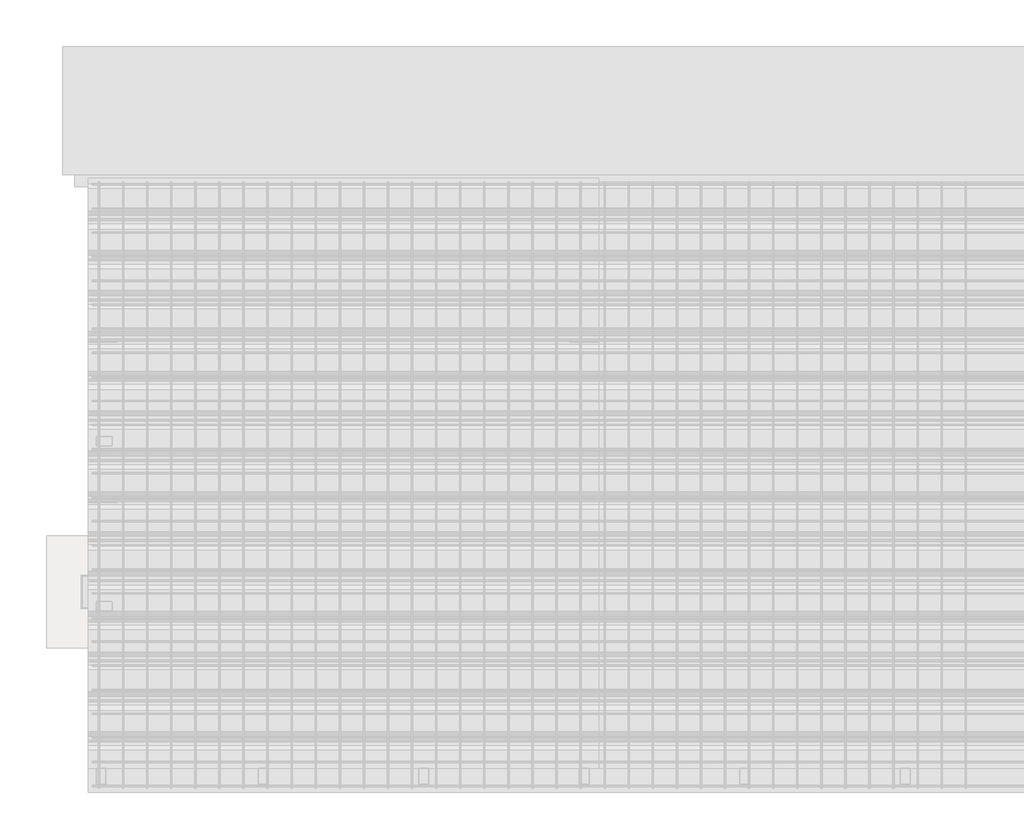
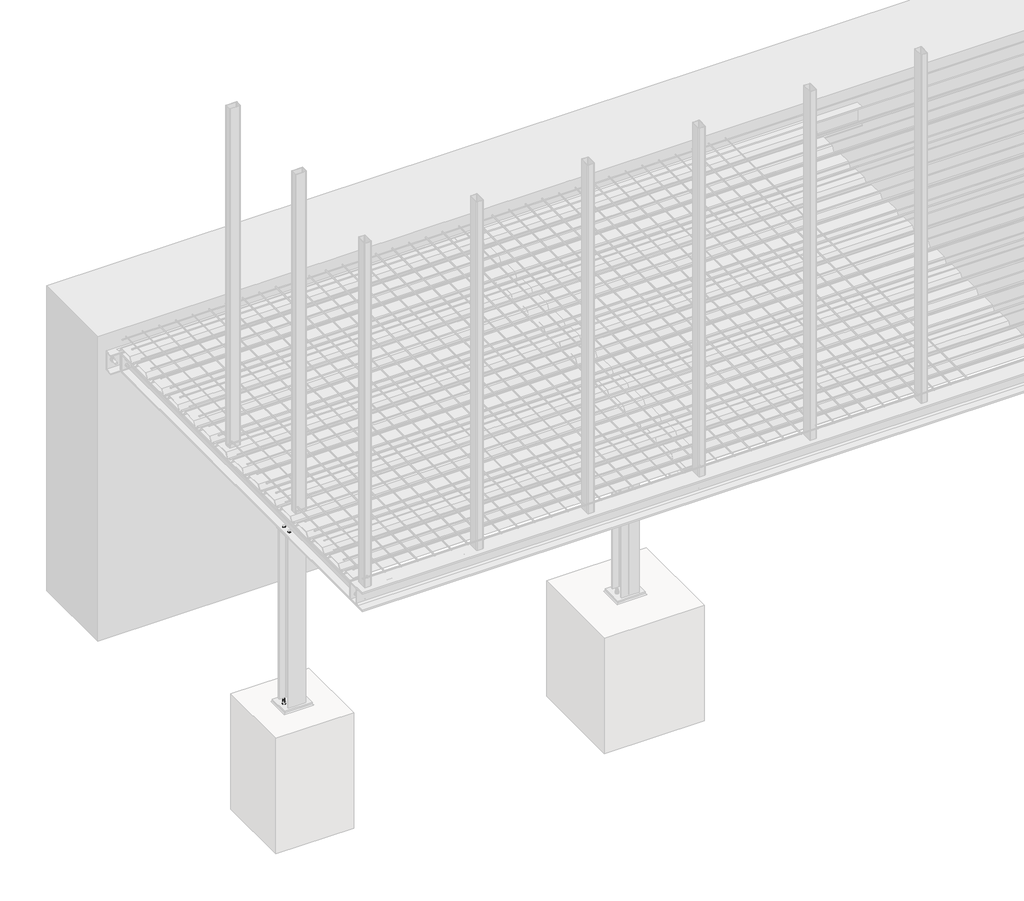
# One storey, part 20 of 36: 21 assemblies.
"""IFC4 building model written with IfcOpenShell, lengths in millimetres."""

import ifcopenshell
import ifcopenshell.guid

model = None  # the IFC model being written
_history = None  # IfcOwnerHistory: only IFC2X3 demands one
_inside = {}  # id of a spatial element -> (the spatial element, [elements in it])
_under = {}  # id of a project, library or spatial element -> (it, [spatial elements below it])
_declared = {}  # id of a project -> (the project, [libraries it declares])
_typed = {}  # id of a type object -> (the type object, [elements of that type])
_made_of = {}  # id of a material, layer set ... -> (it, [elements and type objects made of it])


def new_model(schema):
    """Start an empty IFC model of exactly this schema.

    Asked for "IFC4X3", IfcOpenShell would pick the latest addendum, in which some entities
    have other attributes; the version numbers below select the first issue.
    IFC2X3 requires an IfcOwnerHistory on every rooted entity: one is made here for all.
    """
    global model, _history
    if schema == "IFC4X3":
        model = ifcopenshell.file(schema_version=(4, 3, 0, 0))
    else:
        model = ifcopenshell.file(schema=schema)
    _inside.clear()
    _under.clear()
    _declared.clear()
    _typed.clear()
    _made_of.clear()
    _history = None
    if model.schema == "IFC2X3":
        org = make("IfcOrganization", Name="unknown")
        user = make(
            "IfcPersonAndOrganization",
            ThePerson=make("IfcPerson", FamilyName="unknown"),
            TheOrganization=org,
        )
        app = make(
            "IfcApplication",
            ApplicationDeveloper=org,
            Version="unknown",
            ApplicationFullName="unknown",
            ApplicationIdentifier="unknown",
        )
        _history = make(
            "IfcOwnerHistory",
            OwningUser=user,
            OwningApplication=app,
            ChangeAction="ADDED",
            CreationDate=0,
        )
    return model


def make(cls, **values):
    """One entity of the class cls with the attributes given. An attribute that is None is left unset."""
    return model.create_entity(
        cls, **{name: value for name, value in values.items() if value is not None}
    )


def rooted(cls, **values):
    """An entity with a GlobalId (a new one), such as an element, a storey or a relation."""
    return make(cls, GlobalId=ifcopenshell.guid.new(), OwnerHistory=_history, **values)


def si_unit(unit_type, name, prefix=None):
    """IfcSIUnit, for example si_unit("LENGTHUNIT", "METRE", prefix="MILLI")."""
    return make("IfcSIUnit", UnitType=unit_type, Prefix=prefix, Name=name)


def assignment(units):
    """IfcUnitAssignment: the units of a project."""
    return None if units is None else make("IfcUnitAssignment", Units=units)


def point(xyz):
    """IfcCartesianPoint."""
    return None if xyz is None else make("IfcCartesianPoint", Coordinates=xyz)


def direction(xyz):
    """IfcDirection."""
    return None if xyz is None else make("IfcDirection", DirectionRatios=xyz)


def frame(location, z_axis=None, x_axis=None):
    """IfcAxis2Placement3D, a coordinate frame: its origin and axes. An axis left out is left unset."""
    return make(
        "IfcAxis2Placement3D",
        Location=point(location),
        Axis=direction(z_axis),
        RefDirection=direction(x_axis),
    )


def frame_2d(location, x_axis=None):
    """IfcAxis2Placement2D, a coordinate frame in the plane: its origin and x axis."""
    return make(
        "IfcAxis2Placement2D", Location=point(location), RefDirection=direction(x_axis)
    )


def origin():
    """The frame at (0, 0, 0) with its axes left unset."""
    return frame((0.0, 0.0, 0.0))


def place(relative_to, where):
    """IfcLocalPlacement: puts the frame where relative to a parent placement (None: the world)."""
    return make(
        "IfcLocalPlacement", PlacementRelTo=relative_to, RelativePlacement=where
    )


def context(
    kind, dimensions, precision=None, world=None, true_north=None, identifier=None
):
    """IfcGeometricRepresentationContext, for example the 3D "Model" context."""
    return make(
        "IfcGeometricRepresentationContext",
        ContextIdentifier=identifier,
        ContextType=kind,
        CoordinateSpaceDimension=dimensions,
        Precision=precision,
        WorldCoordinateSystem=world,
        TrueNorth=true_north,
    )


def project(units=None, contexts=None):
    """IfcProject with its units and contexts."""
    return rooted(
        "IfcProject",
        Name="project",
        RepresentationContexts=contexts,
        UnitsInContext=assignment(units),
    )


def spatial(cls, under=None, at=None, **own):
    """A site, building, storey or space (cls), placed at a placement, below another one or the project."""
    s = rooted(cls, ObjectPlacement=at, **own)
    if under is not None:
        _under.setdefault(under.id(), (under, []))[1].append(s)
    return s


def polyline(points):
    """IfcPolyline through the points."""
    return make("IfcPolyline", Points=[point(p) for p in points])


def circle_curve(where, radius):
    """IfcCircle in the frame where."""
    return make("IfcCircle", Position=where, Radius=radius)


def trimmed(basis, trim1, trim2, sense, master):
    """IfcTrimmedCurve: the piece of a basis curve between two trims."""
    return make(
        "IfcTrimmedCurve",
        BasisCurve=basis,
        Trim1=trim1,
        Trim2=trim2,
        SenseAgreement=sense,
        MasterRepresentation=master,
    )


def segment(curve, same_sense, transition):
    """IfcCompositeCurveSegment."""
    return make(
        "IfcCompositeCurveSegment",
        Transition=transition,
        SameSense=same_sense,
        ParentCurve=curve,
    )


def composite_curve(segments, self_intersect=None):
    """IfcCompositeCurve: segments joined end to end."""
    return make("IfcCompositeCurve", Segments=segments, SelfIntersect=self_intersect)


def outline(outer, holes=None, kind="AREA"):
    """IfcArbitraryClosedProfileDef: a profile drawn as a closed curve; with holes, ...WithVoids."""
    if holes is None:
        return make("IfcArbitraryClosedProfileDef", ProfileType=kind, OuterCurve=outer)
    return make(
        "IfcArbitraryProfileDefWithVoids",
        ProfileType=kind,
        OuterCurve=outer,
        InnerCurves=holes,
    )


def extrude(swept, where, along, depth):
    """IfcExtrudedAreaSolid: the profile swept, set in the frame where, extruded along a direction by depth."""
    return make(
        "IfcExtrudedAreaSolid",
        SweptArea=swept,
        Position=where,
        ExtrudedDirection=direction(along),
        Depth=depth,
    )


def shape(context_of_items, identifier, shape_type, items):
    """IfcShapeRepresentation: the items that make up one representation, for example the "Body"."""
    return make(
        "IfcShapeRepresentation",
        ContextOfItems=context_of_items,
        RepresentationIdentifier=identifier,
        RepresentationType=shape_type,
        Items=items,
    )


def made_of(thing, what):
    """Note that an element or type object is made of a material, layer set ...; save() writes the relation."""
    if what is not None:
        _made_of.setdefault(what.id(), (what, []))[1].append(thing)
    return thing


def element(
    cls,
    number,
    at=None,
    inside=None,
    cuts=None,
    type_object=None,
    material=None,
    context=None,
    identifier="Body",
    shape_type=None,
    held_by="IfcProductDefinitionShape",
    body=None,
    shapes=None,
    **own,
):
    """One element of the class cls, such as IfcWall. Its Tag is "e" and its number.

    at: its placement. inside: the storey or other place that contains it. cuts: it is an
    opening in that element (IfcRelVoidsElement). A single representation is given by context,
    identifier, shape_type and body (its items); several are given by shapes. held_by: the class
    of the entity that holds the representations. save() writes the other relations.
    """
    e = rooted(cls, Tag="e%d" % number, ObjectPlacement=at, **own)
    if body is not None:
        shapes = [shape(context, identifier, shape_type, body)]
    if shapes is not None:
        e.Representation = make(held_by, Representations=shapes)
    if inside is not None:
        _inside.setdefault(inside.id(), (inside, []))[1].append(e)
    if cuts is not None:
        rooted(
            "IfcRelVoidsElement", RelatingBuildingElement=cuts, RelatedOpeningElement=e
        )
    if type_object is not None:
        _typed.setdefault(type_object.id(), (type_object, []))[1].append(e)
    return made_of(e, material)


def aggregate(whole, parts):
    """IfcRelAggregates: a whole, such as a stair, and the parts it consists of."""
    return rooted("IfcRelAggregates", RelatingObject=whole, RelatedObjects=parts)


def save(model, path):
    """Write the relations noted so far, then the file.

    IfcRelAggregates (storeys below a building ...), IfcRelContainedInSpatialStructure (elements
    in a storey), IfcRelDefinesByType, IfcRelAssociatesMaterial and IfcRelDeclares: one each for
    every whole, place, type object, material and project.
    """
    for whole, parts in _under.values():
        aggregate(whole, parts)
    for where, things in _inside.values():
        rooted(
            "IfcRelContainedInSpatialStructure",
            RelatedElements=things,
            RelatingStructure=where,
        )
    for kind, things in _typed.values():
        rooted("IfcRelDefinesByType", RelatedObjects=things, RelatingType=kind)
    for what, things in _made_of.values():
        rooted("IfcRelAssociatesMaterial", RelatedObjects=things, RelatingMaterial=what)
    for by, libraries in _declared.values():
        rooted("IfcRelDeclares", RelatingContext=by, RelatedDefinitions=libraries)
    model.write(path)


model = new_model("IFC4")

# Units and contexts
model_context = context("Model", 3, world=origin())
ifc_project = project(units=[si_unit("LENGTHUNIT", "METRE", prefix="MILLI")], contexts=[model_context])

# Site, building, storey
site = spatial("IfcSite", under=ifc_project)
building = spatial("IfcBuilding", under=site)
storey = spatial("IfcBuildingStorey", under=building, Name="Základy", Elevation=-1200.0)

# Assemblies
placement = place(None, origin())
element("IfcElementAssembly", 1, at=placement, inside=storey, context=model_context, shape_type="SweptSolid", body=[
    extrude(outline(composite_curve([segment(polyline([(3073.6, 60.0), (3026.4, 60.0)]), True, "CONTINUOUS"), segment(trimmed(circle_curve(frame_2d((3026.4, 66.4)), 6.4), [point((3026.4, 60.0))], [point((3020.0, 66.4))], False, "CARTESIAN"), True, "CONTINUOUS"), segment(polyline([(3020.0, 66.4), (3020.0, 153.6)]), True, "CONTINUOUS"), segment(trimmed(circle_curve(frame_2d((3026.4, 153.6)), 6.4), [point((3020.0, 153.6))], [point((3026.4, 160.0))], False, "CARTESIAN"), True, "CONTINUOUS"), segment(polyline([(3026.4, 160.0), (3073.6, 160.0)]), True, "CONTINUOUS"), segment(trimmed(circle_curve(frame_2d((3073.6, 153.6)), 6.4), [point((3073.6, 160.0))], [point((3080.0, 153.6))], False, "CARTESIAN"), True, "CONTINUOUS"), segment(polyline([(3080.0, 153.6), (3080.0, 66.4)]), True, "CONTINUOUS"), segment(trimmed(circle_curve(frame_2d((3073.6, 66.4)), 6.4), [point((3080.0, 66.4))], [point((3073.6, 60.0))], False, "CARTESIAN"), True, "CONTINUOUS")], self_intersect=False), holes=[composite_curve([segment(trimmed(circle_curve(frame_2d((3073.6, 66.4)), 3.2), [point((3073.6, 63.2))], [point((3076.8, 66.4))], True, "CARTESIAN"), True, "CONTINUOUS"), segment(polyline([(3076.8, 66.4), (3076.8, 153.6)]), True, "CONTINUOUS"), segment(trimmed(circle_curve(frame_2d((3073.6, 153.6)), 3.2), [point((3076.8, 153.6))], [point((3073.6, 156.8))], True, "CARTESIAN"), True, "CONTINUOUS"), segment(polyline([(3073.6, 156.8), (3026.4, 156.8)]), True, "CONTINUOUS"), segment(trimmed(circle_curve(frame_2d((3026.4, 153.6)), 3.2), [point((3026.4, 156.8))], [point((3023.2, 153.6))], True, "CARTESIAN"), True, "CONTINUOUS"), segment(polyline([(3023.2, 153.6), (3023.2, 66.4)]), True, "CONTINUOUS"), segment(trimmed(circle_curve(frame_2d((3026.4, 66.4)), 3.2), [point((3023.2, 66.4))], [point((3026.4, 63.2))], True, "CARTESIAN"), True, "CONTINUOUS"), segment(polyline([(3026.4, 63.2), (3073.6, 63.2)]), True, "CONTINUOUS")], self_intersect=False)]), frame((0.0, 0.0, -160.0), z_axis=(0.0, 0.0, 1.0), x_axis=(1.0, 0.0, 0.0)), (0.0, 0.0, 1.0), 3320.0),
])
element("IfcElementAssembly", 2, at=placement, inside=storey, context=model_context, shape_type="SweptSolid", body=[
    extrude(outline(polyline([(1802.7875602, -160.0099992), (1772.2875602, -111.5000008), (1637.6975638, -111.5000008), (1607.1975638, -160.0000008), (1552.7875754, -160.0000008), (1522.2875754, -111.5000008), (1387.6975715, -111.5000008), (1357.1975715, -160.0000008), (1302.7875697, -160.0000008), (1272.2875716, -111.5000008), (1137.6975638, -111.5000008), (1107.1975638, -160.0000008), (1052.7875602, -160.0000008), (1022.2875602, -111.5000008), (887.6975638, -111.5000008), (857.1975638, -160.0000008), (802.7875602, -160.0000008), (790.7375724, -139.4300002), (803.1975638, -159.2500008), (856.7875602, -159.2500008), (887.2875602, -110.7500008), (1022.6975638, -110.7500008), (1053.1975638, -159.2500008), (1106.7875754, -159.2500008), (1137.2875754, -110.7500008), (1272.6975715, -110.7500008), (1303.1975695, -159.2500008), (1356.7875716, -159.2500008), (1387.2875678, -110.7500008), (1522.6975638, -110.7500008), (1553.1975638, -159.2500008), (1606.7875602, -159.2500008), (1637.2875602, -110.7500008), (1772.6975638, -110.7500008), (1803.1975638, -159.2500008), (1839.9975821, -160.0000008), (1802.7875602, -160.0099992)])), frame((-40.0, 0.0, 0.0), z_axis=(1.0, 0.0, 0.0), x_axis=(0.0, 1.0, 0.0)), (0.0, 0.0, 1.0), 3180.0),
])
element("IfcElementAssembly", 3, at=placement, inside=storey, context=model_context, shape_type="SweptSolid", body=[
    extrude(outline(polyline([(3500.0, 1710.0), (3500.0, 810.0), (2600.0, 810.0), (2600.0, 1710.0), (3500.0, 1710.0)])), frame((0.0, 0.0, -3100.0), z_axis=(0.0, 0.0, 1.0), x_axis=(1.0, 0.0, 0.0)), (0.0, 0.0, 1.0), 1100.0),
])
element("IfcElementAssembly", 4, at=placement, inside=storey, context=model_context, shape_type="SweptSolid", body=[
    extrude(outline(composite_curve([segment(polyline([(2073.6, 60.0), (2026.4, 60.0)]), True, "CONTINUOUS"), segment(trimmed(circle_curve(frame_2d((2026.4, 66.4)), 6.4), [point((2026.4, 60.0))], [point((2020.0, 66.4))], False, "CARTESIAN"), True, "CONTINUOUS"), segment(polyline([(2020.0, 66.4), (2020.0, 153.6)]), True, "CONTINUOUS"), segment(trimmed(circle_curve(frame_2d((2026.4, 153.6)), 6.4), [point((2020.0, 153.6))], [point((2026.4, 160.0))], False, "CARTESIAN"), True, "CONTINUOUS"), segment(polyline([(2026.4, 160.0), (2073.6, 160.0)]), True, "CONTINUOUS"), segment(trimmed(circle_curve(frame_2d((2073.6, 153.6)), 6.4), [point((2073.6, 160.0))], [point((2080.0, 153.6))], False, "CARTESIAN"), True, "CONTINUOUS"), segment(polyline([(2080.0, 153.6), (2080.0, 66.4)]), True, "CONTINUOUS"), segment(trimmed(circle_curve(frame_2d((2073.6, 66.4)), 6.4), [point((2080.0, 66.4))], [point((2073.6, 60.0))], False, "CARTESIAN"), True, "CONTINUOUS")], self_intersect=False), holes=[composite_curve([segment(trimmed(circle_curve(frame_2d((2073.6, 66.4)), 3.2), [point((2073.6, 63.2))], [point((2076.8, 66.4))], True, "CARTESIAN"), True, "CONTINUOUS"), segment(polyline([(2076.8, 66.4), (2076.8, 153.6)]), True, "CONTINUOUS"), segment(trimmed(circle_curve(frame_2d((2073.6, 153.6)), 3.2), [point((2076.8, 153.6))], [point((2073.6, 156.8))], True, "CARTESIAN"), True, "CONTINUOUS"), segment(polyline([(2073.6, 156.8), (2026.4, 156.8)]), True, "CONTINUOUS"), segment(trimmed(circle_curve(frame_2d((2026.4, 153.6)), 3.2), [point((2026.4, 156.8))], [point((2023.2, 153.6))], True, "CARTESIAN"), True, "CONTINUOUS"), segment(polyline([(2023.2, 153.6), (2023.2, 66.4)]), True, "CONTINUOUS"), segment(trimmed(circle_curve(frame_2d((2026.4, 66.4)), 3.2), [point((2023.2, 66.4))], [point((2026.4, 63.2))], True, "CARTESIAN"), True, "CONTINUOUS"), segment(polyline([(2026.4, 63.2), (2073.6, 63.2)]), True, "CONTINUOUS")], self_intersect=False)]), frame((0.0, 0.0, -160.0), z_axis=(0.0, 0.0, 1.0), x_axis=(1.0, 0.0, 0.0)), (0.0, 0.0, 1.0), 3320.0),
])
element("IfcElementAssembly", 5, at=placement, inside=storey, context=model_context, shape_type="SweptSolid", body=[
    extrude(outline(composite_curve([segment(polyline([(1200.0, -193.0), (1320.0, -193.0), (1320.0, -201.0), (1274.5, -201.0)]), True, "CONTINUOUS"), segment(trimmed(circle_curve(frame_2d((1274.5, -213.0)), 12.0), [point((1274.5, -201.0))], [point((1262.5, -213.0))], True, "CARTESIAN"), True, "CONTINUOUS"), segment(polyline([(1262.5, -213.0), (1262.5, -287.0)]), True, "CONTINUOUS"), segment(trimmed(circle_curve(frame_2d((1274.5, -287.0)), 12.0), [point((1262.5, -287.0))], [point((1274.5, -299.0))], True, "CARTESIAN"), True, "CONTINUOUS"), segment(polyline([(1274.5, -299.0), (1320.0, -299.0), (1320.0, -307.0), (1200.0, -307.0), (1200.0, -299.0), (1245.5, -299.0)]), True, "CONTINUOUS"), segment(trimmed(circle_curve(frame_2d((1245.5, -287.0)), 12.0), [point((1245.5, -299.0))], [point((1257.5, -287.0))], True, "CARTESIAN"), True, "CONTINUOUS"), segment(polyline([(1257.5, -287.0), (1257.5, -213.0)]), True, "CONTINUOUS"), segment(trimmed(circle_curve(frame_2d((1245.5, -213.0)), 12.0), [point((1257.5, -213.0))], [point((1245.5, -201.0))], True, "CARTESIAN"), True, "CONTINUOUS"), segment(polyline([(1245.5, -201.0), (1200.0, -201.0), (1200.0, -193.0)]), True, "CONTINUOUS")], self_intersect=False)), frame((160.0, 0.0, 0.0), z_axis=(1.0, 0.0, 0.0), x_axis=(0.0, 1.0, 0.0)), (0.0, 0.0, 1.0), 2780.0),
    extrude(outline(polyline([(2940.0, 1200.0), (2940.0, 1320.0), (2950.0, 1320.0), (2950.0, 1200.0), (2940.0, 1200.0)])), frame((0.0, 0.0, -299.0), z_axis=(0.0, 0.0, 1.0), x_axis=(1.0, 0.0, 0.0)), (0.0, 0.0, 1.0), 98.0),
    extrude(outline(polyline([(150.0, 1200.0), (150.0, 1320.0), (160.0, 1320.0), (160.0, 1200.0), (150.0, 1200.0)])), frame((0.0, 0.0, -299.0), z_axis=(0.0, 0.0, 1.0), x_axis=(1.0, 0.0, 0.0)), (0.0, 0.0, 1.0), 98.0),
])
element("IfcElementAssembly", 6, at=placement, inside=storey, context=model_context, shape_type="SweptSolid", body=[
    extrude(outline(composite_curve([segment(trimmed(circle_curve(frame_2d((-49.0, 777.5)), 4.0), [point((-49.0, 773.5))], [point((-49.0, 781.5))], False, "CARTESIAN"), True, "CONTINUOUS"), segment(trimmed(circle_curve(frame_2d((-49.0, 777.5)), 4.0), [point((-49.0, 781.5))], [point((-49.0, 773.5))], False, "CARTESIAN"), True, "CONTINUOUS")], self_intersect=False)), frame((0.0, 35.0, 0.0), z_axis=(0.0, 1.0, 0.0), x_axis=(0.0, 0.0, 1.0)), (0.0, 0.0, 1.0), 3780.0),
])
element("IfcElementAssembly", 7, at=placement, inside=storey, context=model_context, shape_type="SweptSolid", body=[
    extrude(outline(composite_curve([segment(trimmed(circle_curve(frame_2d((-49.0, 927.5)), 4.0), [point((-49.0, 923.5))], [point((-49.0, 931.5))], False, "CARTESIAN"), True, "CONTINUOUS"), segment(trimmed(circle_curve(frame_2d((-49.0, 927.5)), 4.0), [point((-49.0, 931.5))], [point((-49.0, 923.5))], False, "CARTESIAN"), True, "CONTINUOUS")], self_intersect=False)), frame((0.0, 35.0, 0.0), z_axis=(0.0, 1.0, 0.0), x_axis=(0.0, 0.0, 1.0)), (0.0, 0.0, 1.0), 3780.0),
])
element("IfcElementAssembly", 8, at=placement, inside=storey, context=model_context, shape_type="SweptSolid", body=[
    extrude(outline(composite_curve([segment(trimmed(circle_curve(frame_2d((-49.0, 1077.5)), 4.0), [point((-49.0, 1073.5))], [point((-49.0, 1081.5))], False, "CARTESIAN"), True, "CONTINUOUS"), segment(trimmed(circle_curve(frame_2d((-49.0, 1077.5)), 4.0), [point((-49.0, 1081.5))], [point((-49.0, 1073.5))], False, "CARTESIAN"), True, "CONTINUOUS")], self_intersect=False)), frame((0.0, 35.0, 0.0), z_axis=(0.0, 1.0, 0.0), x_axis=(0.0, 0.0, 1.0)), (0.0, 0.0, 1.0), 3780.0),
])
element("IfcElementAssembly", 9, at=placement, inside=storey, context=model_context, shape_type="SweptSolid", body=[
    extrude(outline(composite_curve([segment(trimmed(circle_curve(frame_2d((-49.0, 1227.5)), 4.0), [point((-49.0, 1223.5))], [point((-49.0, 1231.5))], False, "CARTESIAN"), True, "CONTINUOUS"), segment(trimmed(circle_curve(frame_2d((-49.0, 1227.5)), 4.0), [point((-49.0, 1231.5))], [point((-49.0, 1223.5))], False, "CARTESIAN"), True, "CONTINUOUS")], self_intersect=False)), frame((0.0, 35.0, 0.0), z_axis=(0.0, 1.0, 0.0), x_axis=(0.0, 0.0, 1.0)), (0.0, 0.0, 1.0), 3780.0),
])
element("IfcElementAssembly", 10, at=placement, inside=storey, context=model_context, shape_type="SweptSolid", body=[
    extrude(outline(composite_curve([segment(trimmed(circle_curve(frame_2d((-49.0, 1377.5)), 4.0), [point((-49.0, 1373.5))], [point((-49.0, 1381.5))], False, "CARTESIAN"), True, "CONTINUOUS"), segment(trimmed(circle_curve(frame_2d((-49.0, 1377.5)), 4.0), [point((-49.0, 1381.5))], [point((-49.0, 1373.5))], False, "CARTESIAN"), True, "CONTINUOUS")], self_intersect=False)), frame((0.0, 35.0, 0.0), z_axis=(0.0, 1.0, 0.0), x_axis=(0.0, 0.0, 1.0)), (0.0, 0.0, 1.0), 3780.0),
])
element("IfcElementAssembly", 11, at=placement, inside=storey, context=model_context, shape_type="SweptSolid", body=[
    extrude(outline(composite_curve([segment(trimmed(circle_curve(frame_2d((-49.0, 1527.5)), 4.0), [point((-49.0, 1523.5))], [point((-49.0, 1531.5))], False, "CARTESIAN"), True, "CONTINUOUS"), segment(trimmed(circle_curve(frame_2d((-49.0, 1527.5)), 4.0), [point((-49.0, 1531.5))], [point((-49.0, 1523.5))], False, "CARTESIAN"), True, "CONTINUOUS")], self_intersect=False)), frame((0.0, 35.0, 0.0), z_axis=(0.0, 1.0, 0.0), x_axis=(0.0, 0.0, 1.0)), (0.0, 0.0, 1.0), 3780.0),
])
element("IfcElementAssembly", 12, at=placement, inside=storey, context=model_context, shape_type="SweptSolid", body=[
    extrude(outline(composite_curve([segment(trimmed(circle_curve(frame_2d((-49.0, 1677.5)), 4.0), [point((-49.0, 1673.5))], [point((-49.0, 1681.5))], False, "CARTESIAN"), True, "CONTINUOUS"), segment(trimmed(circle_curve(frame_2d((-49.0, 1677.5)), 4.0), [point((-49.0, 1681.5))], [point((-49.0, 1673.5))], False, "CARTESIAN"), True, "CONTINUOUS")], self_intersect=False)), frame((0.0, 35.0, 0.0), z_axis=(0.0, 1.0, 0.0), x_axis=(0.0, 0.0, 1.0)), (0.0, 0.0, 1.0), 3780.0),
])
element("IfcElementAssembly", 13, at=placement, inside=storey, context=model_context, shape_type="SweptSolid", body=[
    extrude(outline(composite_curve([segment(trimmed(circle_curve(frame_2d((-49.0, 1827.5)), 4.0), [point((-49.0, 1823.5))], [point((-49.0, 1831.5))], False, "CARTESIAN"), True, "CONTINUOUS"), segment(trimmed(circle_curve(frame_2d((-49.0, 1827.5)), 4.0), [point((-49.0, 1831.5))], [point((-49.0, 1823.5))], False, "CARTESIAN"), True, "CONTINUOUS")], self_intersect=False)), frame((0.0, 35.0, 0.0), z_axis=(0.0, 1.0, 0.0), x_axis=(0.0, 0.0, 1.0)), (0.0, 0.0, 1.0), 3780.0),
])
element("IfcElementAssembly", 14, at=placement, inside=storey, context=model_context, shape_type="SweptSolid", body=[
    extrude(outline(composite_curve([segment(trimmed(circle_curve(frame_2d((-49.0, 1977.5)), 4.0), [point((-49.0, 1973.5))], [point((-49.0, 1981.5))], False, "CARTESIAN"), True, "CONTINUOUS"), segment(trimmed(circle_curve(frame_2d((-49.0, 1977.5)), 4.0), [point((-49.0, 1981.5))], [point((-49.0, 1973.5))], False, "CARTESIAN"), True, "CONTINUOUS")], self_intersect=False)), frame((0.0, 35.0, 0.0), z_axis=(0.0, 1.0, 0.0), x_axis=(0.0, 0.0, 1.0)), (0.0, 0.0, 1.0), 3780.0),
])
element("IfcElementAssembly", 15, at=placement, inside=storey, context=model_context, shape_type="SweptSolid", body=[
    extrude(outline(composite_curve([segment(trimmed(circle_curve(frame_2d((-49.0, 2127.5)), 4.0), [point((-49.0, 2123.5))], [point((-49.0, 2131.5))], False, "CARTESIAN"), True, "CONTINUOUS"), segment(trimmed(circle_curve(frame_2d((-49.0, 2127.5)), 4.0), [point((-49.0, 2131.5))], [point((-49.0, 2123.5))], False, "CARTESIAN"), True, "CONTINUOUS")], self_intersect=False)), frame((0.0, 35.0, 0.0), z_axis=(0.0, 1.0, 0.0), x_axis=(0.0, 0.0, 1.0)), (0.0, 0.0, 1.0), 3780.0),
])
element("IfcElementAssembly", 16, at=placement, inside=storey, context=model_context, shape_type="SweptSolid", body=[
    extrude(outline(composite_curve([segment(trimmed(circle_curve(frame_2d((-49.0, 2277.5)), 4.0), [point((-49.0, 2273.5))], [point((-49.0, 2281.5))], False, "CARTESIAN"), True, "CONTINUOUS"), segment(trimmed(circle_curve(frame_2d((-49.0, 2277.5)), 4.0), [point((-49.0, 2281.5))], [point((-49.0, 2273.5))], False, "CARTESIAN"), True, "CONTINUOUS")], self_intersect=False)), frame((0.0, 35.0, 0.0), z_axis=(0.0, 1.0, 0.0), x_axis=(0.0, 0.0, 1.0)), (0.0, 0.0, 1.0), 3780.0),
])
element("IfcElementAssembly", 17, at=placement, inside=storey, context=model_context, shape_type="SweptSolid", body=[
    extrude(outline(composite_curve([segment(trimmed(circle_curve(frame_2d((-49.0, 2427.5)), 4.0), [point((-49.0, 2423.5))], [point((-49.0, 2431.5))], False, "CARTESIAN"), True, "CONTINUOUS"), segment(trimmed(circle_curve(frame_2d((-49.0, 2427.5)), 4.0), [point((-49.0, 2431.5))], [point((-49.0, 2423.5))], False, "CARTESIAN"), True, "CONTINUOUS")], self_intersect=False)), frame((0.0, 35.0, 0.0), z_axis=(0.0, 1.0, 0.0), x_axis=(0.0, 0.0, 1.0)), (0.0, 0.0, 1.0), 3780.0),
])
element("IfcElementAssembly", 18, at=placement, inside=storey, context=model_context, shape_type="SweptSolid", body=[
    extrude(outline(composite_curve([segment(trimmed(circle_curve(frame_2d((-49.0, 2577.5)), 4.0), [point((-49.0, 2573.5))], [point((-49.0, 2581.5))], False, "CARTESIAN"), True, "CONTINUOUS"), segment(trimmed(circle_curve(frame_2d((-49.0, 2577.5)), 4.0), [point((-49.0, 2581.5))], [point((-49.0, 2573.5))], False, "CARTESIAN"), True, "CONTINUOUS")], self_intersect=False)), frame((0.0, 35.0, 0.0), z_axis=(0.0, 1.0, 0.0), x_axis=(0.0, 0.0, 1.0)), (0.0, 0.0, 1.0), 3780.0),
])
element("IfcElementAssembly", 19, at=placement, inside=storey, context=model_context, shape_type="SweptSolid", body=[
    extrude(outline(composite_curve([segment(trimmed(circle_curve(frame_2d((-49.0, 2727.5)), 4.0), [point((-49.0, 2723.5))], [point((-49.0, 2731.5))], False, "CARTESIAN"), True, "CONTINUOUS"), segment(trimmed(circle_curve(frame_2d((-49.0, 2727.5)), 4.0), [point((-49.0, 2731.5))], [point((-49.0, 2723.5))], False, "CARTESIAN"), True, "CONTINUOUS")], self_intersect=False)), frame((0.0, 35.0, 0.0), z_axis=(0.0, 1.0, 0.0), x_axis=(0.0, 0.0, 1.0)), (0.0, 0.0, 1.0), 3780.0),
])
element("IfcElementAssembly", 20, at=placement, inside=storey, context=model_context, shape_type="SweptSolid", body=[
    extrude(outline(composite_curve([segment(trimmed(circle_curve(frame_2d((-49.0, 2877.5)), 4.0), [point((-49.0, 2873.5))], [point((-49.0, 2881.5))], False, "CARTESIAN"), True, "CONTINUOUS"), segment(trimmed(circle_curve(frame_2d((-49.0, 2877.5)), 4.0), [point((-49.0, 2881.5))], [point((-49.0, 2873.5))], False, "CARTESIAN"), True, "CONTINUOUS")], self_intersect=False)), frame((0.0, 35.0, 0.0), z_axis=(0.0, 1.0, 0.0), x_axis=(0.0, 0.0, 1.0)), (0.0, 0.0, 1.0), 3780.0),
])
element("IfcElementAssembly", 21, at=placement, inside=storey, context=model_context, shape_type="SweptSolid", body=[
    extrude(outline(composite_curve([segment(polyline([(130.0, 1184.0), (-30.0, 1184.0), (-30.0, 1193.0), (32.0, 1193.0)]), True, "CONTINUOUS"), segment(trimmed(circle_curve(frame_2d((32.0, 1208.0)), 15.0), [point((32.0, 1193.0))], [point((47.0, 1208.0))], True, "CARTESIAN"), True, "CONTINUOUS"), segment(polyline([(47.0, 1208.0), (47.0, 1312.0)]), True, "CONTINUOUS"), segment(trimmed(circle_curve(frame_2d((32.0, 1312.0)), 15.0), [point((47.0, 1312.0))], [point((32.0, 1327.0))], True, "CARTESIAN"), True, "CONTINUOUS"), segment(polyline([(32.0, 1327.0), (-30.0, 1327.0), (-30.0, 1336.0), (130.0, 1336.0), (130.0, 1327.0), (68.0, 1327.0)]), True, "CONTINUOUS"), segment(trimmed(circle_curve(frame_2d((68.0, 1312.0)), 15.0), [point((68.0, 1327.0))], [point((53.0, 1312.0))], True, "CARTESIAN"), True, "CONTINUOUS"), segment(polyline([(53.0, 1312.0), (53.0, 1208.0)]), True, "CONTINUOUS"), segment(trimmed(circle_curve(frame_2d((68.0, 1208.0)), 15.0), [point((53.0, 1208.0))], [point((68.0, 1193.0))], True, "CARTESIAN"), True, "CONTINUOUS"), segment(polyline([(68.0, 1193.0), (130.0, 1193.0), (130.0, 1184.0)]), True, "CONTINUOUS")], self_intersect=False)), frame((0.0, 0.0, -1975.0), z_axis=(0.0, 0.0, 1.0), x_axis=(1.0, 0.0, 0.0)), (0.0, 0.0, 1.0), 1625.0),
    extrude(outline(polyline([(175.0, 1356.0), (175.0, 1164.0), (-75.0, 1164.0), (-75.0, 1356.0), (175.0, 1356.0)])), frame((0.0, 0.0, -1990.0), z_axis=(0.0, 0.0, 1.0), x_axis=(1.0, 0.0, 0.0)), (0.0, 0.0, 1.0), 15.0),
    extrude(outline(polyline([(140.0, 1346.0), (140.0, 1174.0), (-40.0, 1174.0), (-40.0, 1346.0), (140.0, 1346.0)])), frame((0.0, 0.0, -350.0), z_axis=(0.0, 0.0, 1.0), x_axis=(1.0, 0.0, 0.0)), (0.0, 0.0, 1.0), 10.0),
    extrude(outline(composite_curve([segment(trimmed(circle_curve(frame_2d((0.0, 1220.0)), 6.5), [point((6.5, 1220.0))], [point((-6.5, 1220.0))], False, "CARTESIAN"), True, "CONTINUOUS"), segment(trimmed(circle_curve(frame_2d((0.0, 1220.0)), 6.5), [point((-6.5, 1220.0))], [point((6.5, 1220.0))], False, "CARTESIAN"), True, "CONTINUOUS")], self_intersect=False)), frame((0.0, 0.0, -350.0), z_axis=(0.0, 0.0, 1.0), x_axis=(1.0, 0.0, 0.0)), (0.0, 0.0, 1.0), 10.1),
    extrude(outline(polyline([(10.3923048, 1220.0), (5.1961524, 1211.0), (-5.1961524, 1211.0), (-10.3923048, 1220.0), (-5.1961524, 1229.0), (5.1961524, 1229.0), (10.3923048, 1220.0)])), frame((0.0, 0.0, -323.5), z_axis=(0.0, 0.0, 1.0), x_axis=(1.0, 0.0, 0.0)), (0.0, 0.0, 1.0), 7.5),
    extrude(outline(composite_curve([segment(trimmed(circle_curve(frame_2d((0.0, 1220.0)), 6.0), [point((6.0, 1220.0))], [point((-6.0, 1220.0))], False, "CARTESIAN"), True, "CONTINUOUS"), segment(trimmed(circle_curve(frame_2d((0.0, 1220.0)), 6.0), [point((-6.0, 1220.0))], [point((6.0, 1220.0))], False, "CARTESIAN"), True, "CONTINUOUS")], self_intersect=False)), frame((0.0, 0.0, -368.5), z_axis=(0.0, 0.0, 1.0), x_axis=(1.0, 0.0, 0.0)), (0.0, 0.0, 1.0), 45.0),
    extrude(outline(composite_curve([segment(trimmed(circle_curve(frame_2d((0.0, 1220.0)), 12.0), [point((12.0, 1220.0))], [point((-12.0, 1220.0))], False, "CARTESIAN"), True, "CONTINUOUS"), segment(trimmed(circle_curve(frame_2d((0.0, 1220.0)), 12.0), [point((-12.0, 1220.0))], [point((12.0, 1220.0))], False, "CARTESIAN"), True, "CONTINUOUS")], self_intersect=False)), frame((0.0, 0.0, -326.0), z_axis=(0.0, 0.0, 1.0), x_axis=(1.0, 0.0, 0.0)), (0.0, 0.0, 1.0), 2.5),
    extrude(outline(composite_curve([segment(trimmed(circle_curve(frame_2d((0.0, 1220.0)), 12.0), [point((12.0, 1220.0))], [point((-12.0, 1220.0))], False, "CARTESIAN"), True, "CONTINUOUS"), segment(trimmed(circle_curve(frame_2d((0.0, 1220.0)), 12.0), [point((-12.0, 1220.0))], [point((12.0, 1220.0))], False, "CARTESIAN"), True, "CONTINUOUS")], self_intersect=False)), frame((0.0, 0.0, -352.5), z_axis=(0.0, 0.0, 1.0), x_axis=(1.0, 0.0, 0.0)), (0.0, 0.0, 1.0), 2.5),
    extrude(outline(polyline([(10.9696551, 1220.0), (5.4848276, 1210.5), (-5.4848276, 1210.5), (-10.9696551, 1220.0), (-5.4848276, 1229.5), (5.4848276, 1229.5), (10.9696551, 1220.0)])), frame((0.0, 0.0, -362.5), z_axis=(0.0, 0.0, 1.0), x_axis=(1.0, 0.0, 0.0)), (0.0, 0.0, 1.0), 10.0),
    extrude(outline(composite_curve([segment(trimmed(circle_curve(frame_2d((0.0, 1220.0)), 6.5), [point((6.5, 1220.0))], [point((-6.5, 1220.0))], False, "CARTESIAN"), True, "CONTINUOUS"), segment(trimmed(circle_curve(frame_2d((0.0, 1220.0)), 6.5), [point((-6.5, 1220.0))], [point((6.5, 1220.0))], False, "CARTESIAN"), True, "CONTINUOUS")], self_intersect=False)), frame((0.0, 0.0, -340.1), z_axis=(0.0, 0.0, 1.0), x_axis=(1.0, 0.0, 0.0)), (0.0, 0.0, 1.0), 14.0),
    extrude(outline(composite_curve([segment(trimmed(circle_curve(frame_2d((100.0, 1220.0)), 6.5), [point((106.5, 1220.0))], [point((93.5, 1220.0))], False, "CARTESIAN"), True, "CONTINUOUS"), segment(trimmed(circle_curve(frame_2d((100.0, 1220.0)), 6.5), [point((93.5, 1220.0))], [point((106.5, 1220.0))], False, "CARTESIAN"), True, "CONTINUOUS")], self_intersect=False)), frame((0.0, 0.0, -350.0), z_axis=(0.0, 0.0, 1.0), x_axis=(1.0, 0.0, 0.0)), (0.0, 0.0, 1.0), 10.1),
    extrude(outline(polyline([(110.3923048, 1220.0), (105.1961524, 1211.0), (94.8038476, 1211.0), (89.6076952, 1220.0), (94.8038476, 1229.0), (105.1961524, 1229.0), (110.3923048, 1220.0)])), frame((0.0, 0.0, -323.5), z_axis=(0.0, 0.0, 1.0), x_axis=(1.0, 0.0, 0.0)), (0.0, 0.0, 1.0), 7.5),
    extrude(outline(composite_curve([segment(trimmed(circle_curve(frame_2d((100.0, 1220.0)), 6.0), [point((106.0, 1220.0))], [point((94.0, 1220.0))], False, "CARTESIAN"), True, "CONTINUOUS"), segment(trimmed(circle_curve(frame_2d((100.0, 1220.0)), 6.0), [point((94.0, 1220.0))], [point((106.0, 1220.0))], False, "CARTESIAN"), True, "CONTINUOUS")], self_intersect=False)), frame((0.0, 0.0, -368.5), z_axis=(0.0, 0.0, 1.0), x_axis=(1.0, 0.0, 0.0)), (0.0, 0.0, 1.0), 45.0),
    extrude(outline(composite_curve([segment(trimmed(circle_curve(frame_2d((100.0, 1220.0)), 12.0), [point((112.0, 1220.0))], [point((88.0, 1220.0))], False, "CARTESIAN"), True, "CONTINUOUS"), segment(trimmed(circle_curve(frame_2d((100.0, 1220.0)), 12.0), [point((88.0, 1220.0))], [point((112.0, 1220.0))], False, "CARTESIAN"), True, "CONTINUOUS")], self_intersect=False)), frame((0.0, 0.0, -326.0), z_axis=(0.0, 0.0, 1.0), x_axis=(1.0, 0.0, 0.0)), (0.0, 0.0, 1.0), 2.5),
    extrude(outline(composite_curve([segment(trimmed(circle_curve(frame_2d((100.0, 1220.0)), 12.0), [point((112.0, 1220.0))], [point((88.0, 1220.0))], False, "CARTESIAN"), True, "CONTINUOUS"), segment(trimmed(circle_curve(frame_2d((100.0, 1220.0)), 12.0), [point((88.0, 1220.0))], [point((112.0, 1220.0))], False, "CARTESIAN"), True, "CONTINUOUS")], self_intersect=False)), frame((0.0, 0.0, -352.5), z_axis=(0.0, 0.0, 1.0), x_axis=(1.0, 0.0, 0.0)), (0.0, 0.0, 1.0), 2.5),
    extrude(outline(polyline([(110.9696551, 1220.0), (105.4848276, 1210.5), (94.5151724, 1210.5), (89.0303449, 1220.0), (94.5151724, 1229.5), (105.4848276, 1229.5), (110.9696551, 1220.0)])), frame((0.0, 0.0, -362.5), z_axis=(0.0, 0.0, 1.0), x_axis=(1.0, 0.0, 0.0)), (0.0, 0.0, 1.0), 10.0),
    extrude(outline(composite_curve([segment(trimmed(circle_curve(frame_2d((100.0, 1220.0)), 6.5), [point((106.5, 1220.0))], [point((93.5, 1220.0))], False, "CARTESIAN"), True, "CONTINUOUS"), segment(trimmed(circle_curve(frame_2d((100.0, 1220.0)), 6.5), [point((93.5, 1220.0))], [point((106.5, 1220.0))], False, "CARTESIAN"), True, "CONTINUOUS")], self_intersect=False)), frame((0.0, 0.0, -340.1), z_axis=(0.0, 0.0, 1.0), x_axis=(1.0, 0.0, 0.0)), (0.0, 0.0, 1.0), 14.0),
    extrude(outline(composite_curve([segment(trimmed(circle_curve(frame_2d((0.0, 1300.0)), 6.5), [point((6.5, 1300.0))], [point((-6.5, 1300.0))], False, "CARTESIAN"), True, "CONTINUOUS"), segment(trimmed(circle_curve(frame_2d((0.0, 1300.0)), 6.5), [point((-6.5, 1300.0))], [point((6.5, 1300.0))], False, "CARTESIAN"), True, "CONTINUOUS")], self_intersect=False)), frame((0.0, 0.0, -350.0), z_axis=(0.0, 0.0, 1.0), x_axis=(1.0, 0.0, 0.0)), (0.0, 0.0, 1.0), 10.1),
    extrude(outline(polyline([(10.3923048, 1300.0), (5.1961524, 1291.0), (-5.1961524, 1291.0), (-10.3923048, 1300.0), (-5.1961524, 1309.0), (5.1961524, 1309.0), (10.3923048, 1300.0)])), frame((0.0, 0.0, -323.5), z_axis=(0.0, 0.0, 1.0), x_axis=(1.0, 0.0, 0.0)), (0.0, 0.0, 1.0), 7.5),
    extrude(outline(composite_curve([segment(trimmed(circle_curve(frame_2d((0.0, 1300.0)), 6.0), [point((6.0, 1300.0))], [point((-6.0, 1300.0))], False, "CARTESIAN"), True, "CONTINUOUS"), segment(trimmed(circle_curve(frame_2d((0.0, 1300.0)), 6.0), [point((-6.0, 1300.0))], [point((6.0, 1300.0))], False, "CARTESIAN"), True, "CONTINUOUS")], self_intersect=False)), frame((0.0, 0.0, -368.5), z_axis=(0.0, 0.0, 1.0), x_axis=(1.0, 0.0, 0.0)), (0.0, 0.0, 1.0), 45.0),
    extrude(outline(composite_curve([segment(trimmed(circle_curve(frame_2d((0.0, 1300.0)), 12.0), [point((12.0, 1300.0))], [point((-12.0, 1300.0))], False, "CARTESIAN"), True, "CONTINUOUS"), segment(trimmed(circle_curve(frame_2d((0.0, 1300.0)), 12.0), [point((-12.0, 1300.0))], [point((12.0, 1300.0))], False, "CARTESIAN"), True, "CONTINUOUS")], self_intersect=False)), frame((0.0, 0.0, -326.0), z_axis=(0.0, 0.0, 1.0), x_axis=(1.0, 0.0, 0.0)), (0.0, 0.0, 1.0), 2.5),
    extrude(outline(composite_curve([segment(trimmed(circle_curve(frame_2d((0.0, 1300.0)), 12.0), [point((12.0, 1300.0))], [point((-12.0, 1300.0))], False, "CARTESIAN"), True, "CONTINUOUS"), segment(trimmed(circle_curve(frame_2d((0.0, 1300.0)), 12.0), [point((-12.0, 1300.0))], [point((12.0, 1300.0))], False, "CARTESIAN"), True, "CONTINUOUS")], self_intersect=False)), frame((0.0, 0.0, -352.5), z_axis=(0.0, 0.0, 1.0), x_axis=(1.0, 0.0, 0.0)), (0.0, 0.0, 1.0), 2.5),
    extrude(outline(polyline([(10.9696551, 1300.0), (5.4848276, 1290.5), (-5.4848276, 1290.5), (-10.9696551, 1300.0), (-5.4848276, 1309.5), (5.4848276, 1309.5), (10.9696551, 1300.0)])), frame((0.0, 0.0, -362.5), z_axis=(0.0, 0.0, 1.0), x_axis=(1.0, 0.0, 0.0)), (0.0, 0.0, 1.0), 10.0),
    extrude(outline(composite_curve([segment(trimmed(circle_curve(frame_2d((0.0, 1300.0)), 6.5), [point((6.5, 1300.0))], [point((-6.5, 1300.0))], False, "CARTESIAN"), True, "CONTINUOUS"), segment(trimmed(circle_curve(frame_2d((0.0, 1300.0)), 6.5), [point((-6.5, 1300.0))], [point((6.5, 1300.0))], False, "CARTESIAN"), True, "CONTINUOUS")], self_intersect=False)), frame((0.0, 0.0, -340.1), z_axis=(0.0, 0.0, 1.0), x_axis=(1.0, 0.0, 0.0)), (0.0, 0.0, 1.0), 14.0),
    extrude(outline(composite_curve([segment(trimmed(circle_curve(frame_2d((100.0, 1300.0)), 6.5), [point((106.5, 1300.0))], [point((93.5, 1300.0))], False, "CARTESIAN"), True, "CONTINUOUS"), segment(trimmed(circle_curve(frame_2d((100.0, 1300.0)), 6.5), [point((93.5, 1300.0))], [point((106.5, 1300.0))], False, "CARTESIAN"), True, "CONTINUOUS")], self_intersect=False)), frame((0.0, 0.0, -350.0), z_axis=(0.0, 0.0, 1.0), x_axis=(1.0, 0.0, 0.0)), (0.0, 0.0, 1.0), 10.1),
    extrude(outline(polyline([(110.3923048, 1300.0), (105.1961524, 1291.0), (94.8038476, 1291.0), (89.6076952, 1300.0), (94.8038476, 1309.0), (105.1961524, 1309.0), (110.3923048, 1300.0)])), frame((0.0, 0.0, -323.5), z_axis=(0.0, 0.0, 1.0), x_axis=(1.0, 0.0, 0.0)), (0.0, 0.0, 1.0), 7.5),
    extrude(outline(composite_curve([segment(trimmed(circle_curve(frame_2d((100.0, 1300.0)), 6.0), [point((106.0, 1300.0))], [point((94.0, 1300.0))], False, "CARTESIAN"), True, "CONTINUOUS"), segment(trimmed(circle_curve(frame_2d((100.0, 1300.0)), 6.0), [point((94.0, 1300.0))], [point((106.0, 1300.0))], False, "CARTESIAN"), True, "CONTINUOUS")], self_intersect=False)), frame((0.0, 0.0, -368.5), z_axis=(0.0, 0.0, 1.0), x_axis=(1.0, 0.0, 0.0)), (0.0, 0.0, 1.0), 45.0),
    extrude(outline(composite_curve([segment(trimmed(circle_curve(frame_2d((100.0, 1300.0)), 12.0), [point((112.0, 1300.0))], [point((88.0, 1300.0))], False, "CARTESIAN"), True, "CONTINUOUS"), segment(trimmed(circle_curve(frame_2d((100.0, 1300.0)), 12.0), [point((88.0, 1300.0))], [point((112.0, 1300.0))], False, "CARTESIAN"), True, "CONTINUOUS")], self_intersect=False)), frame((0.0, 0.0, -326.0), z_axis=(0.0, 0.0, 1.0), x_axis=(1.0, 0.0, 0.0)), (0.0, 0.0, 1.0), 2.5),
    extrude(outline(composite_curve([segment(trimmed(circle_curve(frame_2d((100.0, 1300.0)), 12.0), [point((112.0, 1300.0))], [point((88.0, 1300.0))], False, "CARTESIAN"), True, "CONTINUOUS"), segment(trimmed(circle_curve(frame_2d((100.0, 1300.0)), 12.0), [point((88.0, 1300.0))], [point((112.0, 1300.0))], False, "CARTESIAN"), True, "CONTINUOUS")], self_intersect=False)), frame((0.0, 0.0, -352.5), z_axis=(0.0, 0.0, 1.0), x_axis=(1.0, 0.0, 0.0)), (0.0, 0.0, 1.0), 2.5),
    extrude(outline(polyline([(110.9696551, 1300.0), (105.4848276, 1290.5), (94.5151724, 1290.5), (89.0303449, 1300.0), (94.5151724, 1309.5), (105.4848276, 1309.5), (110.9696551, 1300.0)])), frame((0.0, 0.0, -362.5), z_axis=(0.0, 0.0, 1.0), x_axis=(1.0, 0.0, 0.0)), (0.0, 0.0, 1.0), 10.0),
    extrude(outline(composite_curve([segment(trimmed(circle_curve(frame_2d((100.0, 1300.0)), 6.5), [point((106.5, 1300.0))], [point((93.5, 1300.0))], False, "CARTESIAN"), True, "CONTINUOUS"), segment(trimmed(circle_curve(frame_2d((100.0, 1300.0)), 6.5), [point((93.5, 1300.0))], [point((106.5, 1300.0))], False, "CARTESIAN"), True, "CONTINUOUS")], self_intersect=False)), frame((0.0, 0.0, -340.1), z_axis=(0.0, 0.0, 1.0), x_axis=(1.0, 0.0, 0.0)), (0.0, 0.0, 1.0), 14.0),
    extrude(outline(polyline([(-17.2635066, 1260.0), (-21.1317533, 1253.3000002), (-28.8682467, 1253.3000002), (-32.7364934, 1260.0), (-28.8682467, 1266.6999998), (-21.1317533, 1266.6999998), (-17.2635066, 1260.0)])), frame((0.0, 0.0, -2122.0), z_axis=(0.0, 0.0, 1.0), x_axis=(1.0, 0.0, 0.0)), (0.0, 0.0, 1.0), 132.0),
    extrude(outline(composite_curve([segment(trimmed(circle_curve(frame_2d((-25.0, 1260.0)), 8.0), [point((-17.0, 1260.0))], [point((-33.0, 1260.0))], False, "CARTESIAN"), True, "CONTINUOUS"), segment(trimmed(circle_curve(frame_2d((-25.0, 1260.0)), 8.0), [point((-33.0, 1260.0))], [point((-17.0, 1260.0))], False, "CARTESIAN"), True, "CONTINUOUS")], self_intersect=False)), frame((0.0, 0.0, -1990.0), z_axis=(0.0, 0.0, 1.0), x_axis=(1.0, 0.0, 0.0)), (0.0, 0.0, 1.0), 58.0),
    extrude(outline(composite_curve([segment(trimmed(circle_curve(frame_2d((-25.0, 1260.0)), 15.0), [point((-10.0, 1260.0))], [point((-40.0, 1260.0))], False, "CARTESIAN"), True, "CONTINUOUS"), segment(trimmed(circle_curve(frame_2d((-25.0, 1260.0)), 15.0), [point((-40.0, 1260.0))], [point((-10.0, 1260.0))], False, "CARTESIAN"), True, "CONTINUOUS")], self_intersect=False)), frame((0.0, 0.0, -1975.0), z_axis=(0.0, 0.0, 1.0), x_axis=(1.0, 0.0, 0.0)), (0.0, 0.0, 1.0), 3.0),
    extrude(outline(polyline([(-9.5558803, 1260.0), (-17.2779401, 1246.625), (-32.7220599, 1246.625), (-40.4441197, 1260.0), (-32.7220599, 1273.375), (-17.2779401, 1273.375), (-9.5558803, 1260.0)])), frame((0.0, 0.0, -1972.0), z_axis=(0.0, 0.0, 1.0), x_axis=(1.0, 0.0, 0.0)), (0.0, 0.0, 1.0), 13.0),
    extrude(outline(composite_curve([segment(trimmed(circle_curve(frame_2d((-25.0, 1260.0)), 9.0), [point((-16.0, 1260.0))], [point((-34.0, 1260.0))], False, "CARTESIAN"), True, "CONTINUOUS"), segment(trimmed(circle_curve(frame_2d((-25.0, 1260.0)), 9.0), [point((-34.0, 1260.0))], [point((-16.0, 1260.0))], False, "CARTESIAN"), True, "CONTINUOUS")], self_intersect=False)), frame((0.0, 0.0, -1990.0), z_axis=(0.0, 0.0, 1.0), x_axis=(1.0, 0.0, 0.0)), (0.0, 0.0, 1.0), 15.1),
    extrude(outline(polyline([(132.7364934, 1260.0), (128.8682467, 1253.3000002), (121.1317533, 1253.3000002), (117.2635066, 1260.0), (121.1317533, 1266.6999998), (128.8682467, 1266.6999998), (132.7364934, 1260.0)])), frame((0.0, 0.0, -2122.0), z_axis=(0.0, 0.0, 1.0), x_axis=(1.0, 0.0, 0.0)), (0.0, 0.0, 1.0), 132.0),
    extrude(outline(composite_curve([segment(trimmed(circle_curve(frame_2d((125.0, 1260.0)), 8.0), [point((133.0, 1260.0))], [point((117.0, 1260.0))], False, "CARTESIAN"), True, "CONTINUOUS"), segment(trimmed(circle_curve(frame_2d((125.0, 1260.0)), 8.0), [point((117.0, 1260.0))], [point((133.0, 1260.0))], False, "CARTESIAN"), True, "CONTINUOUS")], self_intersect=False)), frame((0.0, 0.0, -1990.0), z_axis=(0.0, 0.0, 1.0), x_axis=(1.0, 0.0, 0.0)), (0.0, 0.0, 1.0), 58.0),
    extrude(outline(composite_curve([segment(trimmed(circle_curve(frame_2d((125.0, 1260.0)), 15.0), [point((140.0, 1260.0))], [point((110.0, 1260.0))], False, "CARTESIAN"), True, "CONTINUOUS"), segment(trimmed(circle_curve(frame_2d((125.0, 1260.0)), 15.0), [point((110.0, 1260.0))], [point((140.0, 1260.0))], False, "CARTESIAN"), True, "CONTINUOUS")], self_intersect=False)), frame((0.0, 0.0, -1975.0), z_axis=(0.0, 0.0, 1.0), x_axis=(1.0, 0.0, 0.0)), (0.0, 0.0, 1.0), 3.0),
    extrude(outline(polyline([(140.4441197, 1260.0), (132.7220599, 1246.625), (117.2779401, 1246.625), (109.5558803, 1260.0), (117.2779401, 1273.375), (132.7220599, 1273.375), (140.4441197, 1260.0)])), frame((0.0, 0.0, -1972.0), z_axis=(0.0, 0.0, 1.0), x_axis=(1.0, 0.0, 0.0)), (0.0, 0.0, 1.0), 13.0),
    extrude(outline(composite_curve([segment(trimmed(circle_curve(frame_2d((125.0, 1260.0)), 9.0), [point((134.0, 1260.0))], [point((116.0, 1260.0))], False, "CARTESIAN"), True, "CONTINUOUS"), segment(trimmed(circle_curve(frame_2d((125.0, 1260.0)), 9.0), [point((116.0, 1260.0))], [point((134.0, 1260.0))], False, "CARTESIAN"), True, "CONTINUOUS")], self_intersect=False)), frame((0.0, 0.0, -1990.0), z_axis=(0.0, 0.0, 1.0), x_axis=(1.0, 0.0, 0.0)), (0.0, 0.0, 1.0), 15.1),
])

save(model, "model.ifc")
